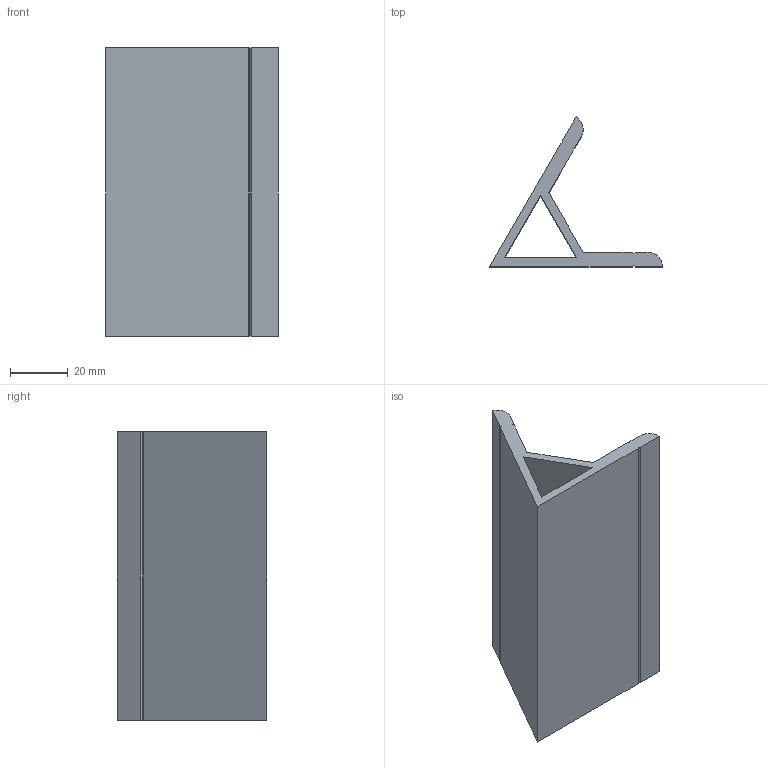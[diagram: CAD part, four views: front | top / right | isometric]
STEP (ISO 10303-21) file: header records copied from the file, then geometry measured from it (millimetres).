
FILE_DESCRIPTION (( 'STEP AP203' ), '1' );
FILE_NAME ('WA6060.STEP', '2024-02-19T11:59:11', ( '' ), ( '' ), 'SwSTEP 2.0', 'SolidWorks 2022', '' );
FILE_SCHEMA (( 'CONFIG_CONTROL_DESIGN' ));
Length unit declared in the file: millimetre
Products named in the file (1): WA6060
Bounding box: 60 x 51.96 x 100 mm (x, y, z)
Volume: 52054.6 mm3; surface area: 29161 mm2
Topology: 1 solids, 1 shells, 24 faces, 66 edges, 44 vertices
Faces by surface type: plane 22, cylinder 2
Entity records: 835 total; most frequent: CARTESIAN_POINT 135, ORIENTED_EDGE 132, DIRECTION 120, EDGE_CURVE 66, LINE 62, VECTOR 62, VERTEX_POINT 44, AXIS2_PLACEMENT_3D 29
